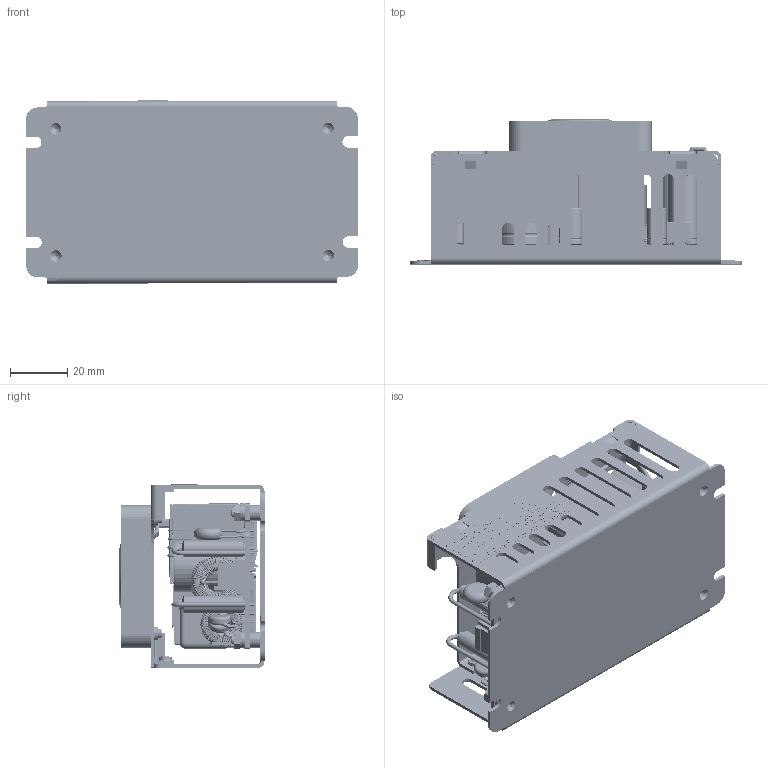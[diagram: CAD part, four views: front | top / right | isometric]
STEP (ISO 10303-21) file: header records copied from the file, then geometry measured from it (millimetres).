
FILE_DESCRIPTION (( 'STEP AP214' ), '1' );
FILE_NAME ('CUS-150M-F.STEP', '2017-06-07T14:45:31', ( '' ), ( '' ), 'SwSTEP 2.0', 'SolidWorks 2016', '' );
FILE_SCHEMA (( 'AUTOMOTIVE_DESIGN' ));
Length unit declared in the file: millimetre
Products named in the file (1): CUS-150M-F
Bounding box: 116.08 x 50.7 x 64.1 mm (x, y, z)
Volume: 97720 mm3; surface area: 141864.9 mm2
Topology: 299 solids, 299 shells, 11044 faces, 26920 edges, 16912 vertices
Faces by surface type: plane 6381, bspline 2339, cylinder 1817, torus 312, sphere 137, cone 58
Full cylindrical faces by diameter (mm): 0.349 x1, 0.4 x2, 0.5 x37, 0.52 x4, 0.6 x62, 0.632 x2, 0.65 x2, 0.7 x2, 0.8 x40, 0.9 x26, 1 x72, 1.1 x2, 1.2 x6, 1.3 x4, 1.5 x7, 1.6 x6, 1.7 x2, 1.8 x11, 1.85 x2, 2 x2, 2.2 x4, 2.3 x5, 2.5 x4, 3 x13, 3.2 x4, 3.3 x4, 3.5 x1, 3.7 x4, 3.96 x4, 4.2 x1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
Entity records: 548197 total; most frequent: CARTESIAN_POINT 185073, ORIENTED_EDGE 49610, DIRECTION 43516, EDGE_CURVE 24805, VERTEX_POINT 16768, VECTOR 16696, LINE 16696, EDGE_LOOP 13791
